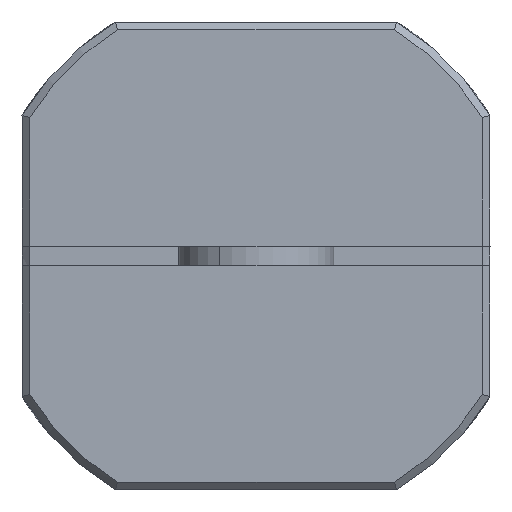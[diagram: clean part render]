
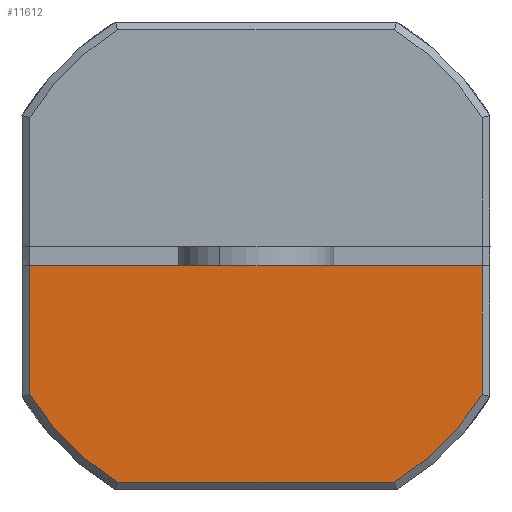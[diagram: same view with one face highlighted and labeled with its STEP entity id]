
A CAD part, left-side view. The second image highlights one B-rep face of the part: STEP entity #11612.
In plain terms, the highlighted planar face has unit normal (-1, 0, 0).
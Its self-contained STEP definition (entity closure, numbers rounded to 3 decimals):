
#18 = VECTOR ( 'NONE', #12074, 1000. ) ;
#108 = CARTESIAN_POINT ( 'NONE',  ( -46.838, 21.099, -5.854 ) ) ;
#671 = EDGE_CURVE ( 'NONE', #7703, #11942, #8236, .T. ) ;
#972 = DIRECTION ( 'NONE',  ( 0., 1., 0. ) ) ;
#1248 = CARTESIAN_POINT ( 'NONE',  ( -46.838, 18.849, -0.304 ) ) ;
#1595 = CARTESIAN_POINT ( 'NONE',  ( -46.838, 24.649, -0.054 ) ) ;
#1613 = EDGE_CURVE ( 'NONE', #8905, #13716, #2906, .T. ) ;
#2034 = CIRCLE ( 'NONE', #13787, 6.8 ) ;
#2074 = CARTESIAN_POINT ( 'NONE',  ( -46.838, 24.649, -0.304 ) ) ;
#2360 = DIRECTION ( 'NONE',  ( 0., 0., -1. ) ) ;
#2403 = CARTESIAN_POINT ( 'NONE',  ( -46.838, 18.849, -3.604 ) ) ;
#2423 = EDGE_CURVE ( 'NONE', #7703, #6702, #10161, .T. ) ;
#2683 = DIRECTION ( 'NONE',  ( 0., 0., -1. ) ) ;
#2890 = EDGE_CURVE ( 'NONE', #5013, #11942, #7957, .T. ) ;
#2906 = LINE ( 'NONE', #10997, #18 ) ;
#2941 = CIRCLE ( 'NONE', #5582, 6.8 ) ;
#3011 = ORIENTED_EDGE ( 'NONE', *, *, #4880, .F. ) ;
#3443 = FACE_OUTER_BOUND ( 'NONE', #4992, .T. ) ;
#3744 = CARTESIAN_POINT ( 'NONE',  ( -46.838, 18.849, -3.079 ) ) ;
#4406 = ORIENTED_EDGE ( 'NONE', *, *, #1613, .T. ) ;
#4596 = CARTESIAN_POINT ( 'NONE',  ( -46.838, 30.449, -3.079 ) ) ;
#4880 = EDGE_CURVE ( 'NONE', #8905, #5013, #2034, .T. ) ;
#4992 = EDGE_LOOP ( 'NONE', ( #7384, #7261, #13295, #3011, #4406, #8223 ) ) ;
#5013 = VERTEX_POINT ( 'NONE', #6775 ) ;
#5563 = DIRECTION ( 'NONE',  ( 1., 0., 0. ) ) ;
#5582 = AXIS2_PLACEMENT_3D ( 'NONE', #1595, #9137, #2683 ) ;
#6549 = PLANE ( 'NONE',  #13393 ) ;
#6702 = VERTEX_POINT ( 'NONE', #2403 ) ;
#6775 = CARTESIAN_POINT ( 'NONE',  ( -46.838, 30.449, -3.604 ) ) ;
#7261 = ORIENTED_EDGE ( 'NONE', *, *, #671, .T. ) ;
#7384 = ORIENTED_EDGE ( 'NONE', *, *, #2423, .F. ) ;
#7703 = VERTEX_POINT ( 'NONE', #10600 ) ;
#7957 = LINE ( 'NONE', #4596, #10474 ) ;
#8223 = ORIENTED_EDGE ( 'NONE', *, *, #9360, .F. ) ;
#8236 = LINE ( 'NONE', #2074, #10768 ) ;
#8386 = CARTESIAN_POINT ( 'NONE',  ( -46.838, 28.198, -5.854 ) ) ;
#8552 = CARTESIAN_POINT ( 'NONE',  ( -46.838, 30.449, -0.304 ) ) ;
#8801 = DIRECTION ( 'NONE',  ( 1., 0., 0. ) ) ;
#8905 = VERTEX_POINT ( 'NONE', #8386 ) ;
#9137 = DIRECTION ( 'NONE',  ( 1., 0., 0. ) ) ;
#9360 = EDGE_CURVE ( 'NONE', #6702, #13716, #2941, .T. ) ;
#10161 = LINE ( 'NONE', #3744, #13043 ) ;
#10210 = DIRECTION ( 'NONE',  ( 0., 0., -1. ) ) ;
#10474 = VECTOR ( 'NONE', #13218, 1000. ) ;
#10600 = CARTESIAN_POINT ( 'NONE',  ( -46.838, 18.849, -0.304 ) ) ;
#10768 = VECTOR ( 'NONE', #972, 1000. ) ;
#10997 = CARTESIAN_POINT ( 'NONE',  ( -46.838, 24.649, -5.854 ) ) ;
#11612 = ADVANCED_FACE ( 'NONE', ( #3443 ), #6549, .F. ) ;
#11942 = VERTEX_POINT ( 'NONE', #8552 ) ;
#11998 = CARTESIAN_POINT ( 'NONE',  ( -46.838, 24.649, -0.054 ) ) ;
#12074 = DIRECTION ( 'NONE',  ( 0., -1., 0. ) ) ;
#13043 = VECTOR ( 'NONE', #10210, 1000. ) ;
#13096 = DIRECTION ( 'NONE',  ( 0., 0., -1. ) ) ;
#13218 = DIRECTION ( 'NONE',  ( 0., 0., 1. ) ) ;
#13295 = ORIENTED_EDGE ( 'NONE', *, *, #2890, .F. ) ;
#13393 = AXIS2_PLACEMENT_3D ( 'NONE', #1248, #8801, #2360 ) ;
#13716 = VERTEX_POINT ( 'NONE', #108 ) ;
#13787 = AXIS2_PLACEMENT_3D ( 'NONE', #11998, #5563, #13096 ) ;
